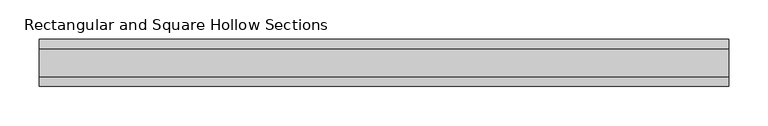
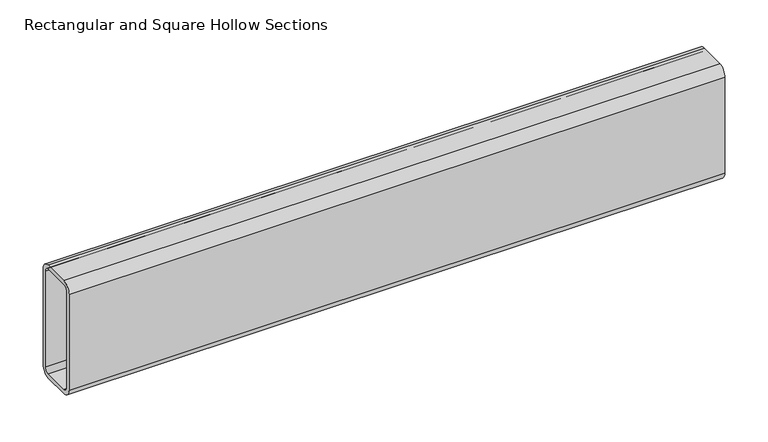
"""IFC4 building model written with IfcOpenShell, lengths in millimetres: beam geometry, Rectangular and Square Hollow Sections : TREC160x60x6."""

from ifc_helpers import new_model, si_unit, point, frame, frame_2d, origin, place, context, project, spatial, polyline, circle_curve, trimmed, segment, composite_curve, outline, extrude, source, transform, mapped, element, save


def rectangular_and_square_hollow_sections_821853a5(model_context):
    return source(origin(), model_context, "Body", "SweptSolid", [
        extrude(outline(composite_curve([segment(polyline([(30.0, 68.0), (30.0, -68.0)]), True, "CONTINUOUS"), segment(trimmed(circle_curve(frame_2d((18.0, -68.0)), 12.0), [point((30.0, -68.0))], [point((18.0, -80.0))], False, "CARTESIAN"), True, "CONTINUOUS"), segment(polyline([(18.0, -80.0), (-18.0, -80.0)]), True, "CONTINUOUS"), segment(trimmed(circle_curve(frame_2d((-18.0, -68.0)), 12.0), [point((-18.0, -80.0))], [point((-30.0, -68.0))], False, "CARTESIAN"), True, "CONTINUOUS"), segment(polyline([(-30.0, -68.0), (-30.0, 68.0)]), True, "CONTINUOUS"), segment(trimmed(circle_curve(frame_2d((-18.0, 68.0)), 12.0), [point((-30.0, 68.0))], [point((-18.0, 80.0))], False, "CARTESIAN"), True, "CONTINUOUS"), segment(polyline([(-18.0, 80.0), (18.0, 80.0)]), True, "CONTINUOUS"), segment(trimmed(circle_curve(frame_2d((18.0, 68.0)), 12.0), [point((18.0, 80.0))], [point((30.0, 68.0))], False, "CARTESIAN"), True, "CONTINUOUS")], self_intersect=False), holes=[composite_curve([segment(trimmed(circle_curve(frame_2d((-18.0, 68.0)), 6.0), [point((-18.0, 74.0))], [point((-24.0, 68.0))], True, "CARTESIAN"), True, "CONTINUOUS"), segment(polyline([(-24.0, 68.0), (-24.0, -68.0)]), True, "CONTINUOUS"), segment(trimmed(circle_curve(frame_2d((-18.0, -68.0)), 6.0), [point((-24.0, -68.0))], [point((-18.0, -74.0))], True, "CARTESIAN"), True, "CONTINUOUS"), segment(polyline([(-18.0, -74.0), (18.0, -74.0)]), True, "CONTINUOUS"), segment(trimmed(circle_curve(frame_2d((18.0, -68.0)), 6.0), [point((18.0, -74.0))], [point((24.0, -68.0))], True, "CARTESIAN"), True, "CONTINUOUS"), segment(polyline([(24.0, -68.0), (24.0, 68.0)]), True, "CONTINUOUS"), segment(trimmed(circle_curve(frame_2d((18.0, 68.0)), 6.0), [point((24.0, 68.0))], [point((18.0, 74.0))], True, "CARTESIAN"), True, "CONTINUOUS"), segment(polyline([(18.0, 74.0), (-18.0, 74.0)]), True, "CONTINUOUS")], self_intersect=False)]), frame((-439.0, 0.0, 0.0), z_axis=(1.0, 0.0, 0.0), x_axis=(0.0, 1.0, 0.0)), (0.0, 0.0, 1.0), 878.0),
    ])


if __name__ == "__main__":
    model = new_model("IFC4")
    model_context = context("Model", 3, world=origin())
    ifc_project = project(units=[si_unit("LENGTHUNIT", "METRE", prefix="MILLI")], contexts=[model_context])
    site = spatial("IfcSite", under=ifc_project)
    building = spatial("IfcBuilding", under=site)
    placement = place(None, origin())
    rectangular_and_square_hollow_sections_shape = rectangular_and_square_hollow_sections_821853a5(model_context)
    element("IfcBeam", 1, ObjectType="Rectangular and Square Hollow Sections : TREC160x60x6", at=placement, inside=building, context=model_context, shape_type="MappedRepresentation", body=[
        mapped(rectangular_and_square_hollow_sections_shape, transform((0.0, 0.0, 0.0), x_axis=(1.0, 0.0, 0.0), y_axis=(0.0, 1.0, 0.0), z_axis=(0.0, 0.0, 1.0))),
    ])
    save(model, "model.ifc")
